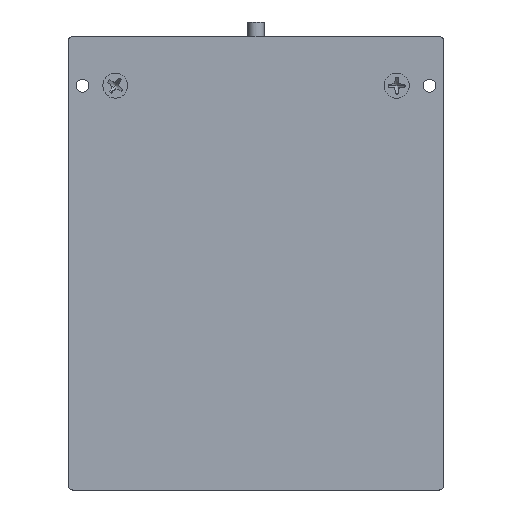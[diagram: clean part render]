
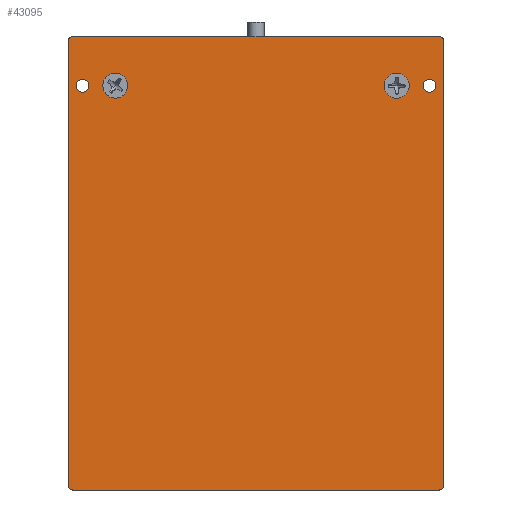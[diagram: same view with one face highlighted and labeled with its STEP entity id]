
A CAD part, front view. The second image highlights one B-rep face of the part: STEP entity #43095.
In plain terms, the highlighted planar face has unit normal (0, -1, 0).
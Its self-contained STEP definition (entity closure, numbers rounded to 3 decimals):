
#286 = CARTESIAN_POINT ( 'NONE',  ( 41., 0., 49.75 ) ) ;
#866 = VERTEX_POINT ( 'NONE', #40561 ) ;
#971 = EDGE_LOOP ( 'NONE', ( #22494, #44518 ) ) ;
#2166 = ORIENTED_EDGE ( 'NONE', *, *, #62552, .F. ) ;
#2408 = CARTESIAN_POINT ( 'NONE',  ( 41., 0., -49.75 ) ) ;
#2640 = EDGE_LOOP ( 'NONE', ( #7850, #22749, #29954, #69302, #58798, #18780, #23540, #4242 ) ) ;
#2759 = EDGE_CURVE ( 'NONE', #866, #35593, #24465, .T. ) ;
#4242 = ORIENTED_EDGE ( 'NONE', *, *, #2759, .T. ) ;
#4907 = EDGE_CURVE ( 'NONE', #31152, #67651, #40061, .T. ) ;
#5228 = EDGE_CURVE ( 'NONE', #39173, #67098, #50738, .T. ) ;
#5321 = AXIS2_PLACEMENT_3D ( 'NONE', #72750, #15448, #21437 ) ;
#6481 = EDGE_LOOP ( 'NONE', ( #42922, #44778 ) ) ;
#7850 = ORIENTED_EDGE ( 'NONE', *, *, #46719, .F. ) ;
#8473 = VERTEX_POINT ( 'NONE', #50607 ) ;
#8568 = DIRECTION ( 'NONE',  ( 0., -1., 0. ) ) ;
#8579 = VECTOR ( 'NONE', #56828, 1000. ) ;
#9852 = DIRECTION ( 'NONE',  ( 0., 0., 1. ) ) ;
#12301 = VERTEX_POINT ( 'NONE', #63314 ) ;
#12398 = CARTESIAN_POINT ( 'NONE',  ( -41., 0., 50.75 ) ) ;
#12462 = DIRECTION ( 'NONE',  ( 0., 0., -1. ) ) ;
#12641 = EDGE_CURVE ( 'NONE', #67651, #31152, #22614, .T. ) ;
#12776 = CIRCLE ( 'NONE', #50986, 1.45 ) ;
#12917 = EDGE_CURVE ( 'NONE', #38297, #22425, #23574, .T. ) ;
#13196 = VERTEX_POINT ( 'NONE', #12398 ) ;
#13966 = AXIS2_PLACEMENT_3D ( 'NONE', #29637, #30753, #47209 ) ;
#14102 = CARTESIAN_POINT ( 'NONE',  ( 42., 0., -50.75 ) ) ;
#14564 = VECTOR ( 'NONE', #48636, 1000. ) ;
#15131 = LINE ( 'NONE', #21121, #43657 ) ;
#15448 = DIRECTION ( 'NONE',  ( 0., -1., 0. ) ) ;
#15506 = DIRECTION ( 'NONE',  ( 0., -1., 0. ) ) ;
#18780 = ORIENTED_EDGE ( 'NONE', *, *, #5228, .T. ) ;
#19452 = AXIS2_PLACEMENT_3D ( 'NONE', #24088, #58867, #12462 ) ;
#19654 = DIRECTION ( 'NONE',  ( 0., -1., 0. ) ) ;
#20068 = LINE ( 'NONE', #14102, #45266 ) ;
#20354 = DIRECTION ( 'NONE',  ( 0., 0., -1. ) ) ;
#21121 = CARTESIAN_POINT ( 'NONE',  ( -42., 0., -50.75 ) ) ;
#21437 = DIRECTION ( 'NONE',  ( 0., 0., 1. ) ) ;
#22425 = VERTEX_POINT ( 'NONE', #62045 ) ;
#22494 = ORIENTED_EDGE ( 'NONE', *, *, #4907, .F. ) ;
#22614 = CIRCLE ( 'NONE', #40440, 1.45 ) ;
#22624 = PLANE ( 'NONE',  #40692 ) ;
#22749 = ORIENTED_EDGE ( 'NONE', *, *, #73479, .T. ) ;
#23146 = CARTESIAN_POINT ( 'NONE',  ( -42., 0., 49.75 ) ) ;
#23532 = CIRCLE ( 'NONE', #13966, 2.75 ) ;
#23540 = ORIENTED_EDGE ( 'NONE', *, *, #40515, .F. ) ;
#23574 = CIRCLE ( 'NONE', #65439, 2.75 ) ;
#24088 = CARTESIAN_POINT ( 'NONE',  ( 31.5, 0., 39.75 ) ) ;
#24465 = CIRCLE ( 'NONE', #73533, 1. ) ;
#24956 = VERTEX_POINT ( 'NONE', #23146 ) ;
#26083 = CIRCLE ( 'NONE', #57157, 1.45 ) ;
#26101 = EDGE_CURVE ( 'NONE', #51237, #24956, #15131, .T. ) ;
#28423 = EDGE_CURVE ( 'NONE', #51237, #12301, #37655, .T. ) ;
#28538 = AXIS2_PLACEMENT_3D ( 'NONE', #38717, #15506, #39090 ) ;
#29000 = FACE_BOUND ( 'NONE', #31645, .T. ) ;
#29012 = CIRCLE ( 'NONE', #19452, 2.75 ) ;
#29127 = CARTESIAN_POINT ( 'NONE',  ( 31.5, 0., 42.5 ) ) ;
#29380 = DIRECTION ( 'NONE',  ( 0., 1., 0. ) ) ;
#29637 = CARTESIAN_POINT ( 'NONE',  ( -31.5, 0., 39.75 ) ) ;
#29749 = CARTESIAN_POINT ( 'NONE',  ( 0., 0., 0. ) ) ;
#29954 = ORIENTED_EDGE ( 'NONE', *, *, #26101, .F. ) ;
#30070 = CARTESIAN_POINT ( 'NONE',  ( 38.84, 0., 38.3 ) ) ;
#30625 = CARTESIAN_POINT ( 'NONE',  ( -31.5, 0., 42.5 ) ) ;
#30753 = DIRECTION ( 'NONE',  ( 0., -1., 0. ) ) ;
#30947 = CIRCLE ( 'NONE', #28538, 1. ) ;
#31152 = VERTEX_POINT ( 'NONE', #30070 ) ;
#31246 = DIRECTION ( 'NONE',  ( 0., -1., 0. ) ) ;
#31645 = EDGE_LOOP ( 'NONE', ( #36172, #60625 ) ) ;
#32015 = DIRECTION ( 'NONE',  ( 0., -1., 0. ) ) ;
#33715 = CARTESIAN_POINT ( 'NONE',  ( -38.84, 0., 39.75 ) ) ;
#34015 = CARTESIAN_POINT ( 'NONE',  ( -42., 0., 50.75 ) ) ;
#34524 = EDGE_CURVE ( 'NONE', #39173, #12301, #66631, .T. ) ;
#34626 = FACE_BOUND ( 'NONE', #6481, .T. ) ;
#35593 = VERTEX_POINT ( 'NONE', #70821 ) ;
#36172 = ORIENTED_EDGE ( 'NONE', *, *, #68916, .F. ) ;
#36176 = CARTESIAN_POINT ( 'NONE',  ( -38.84, 0., 38.3 ) ) ;
#36950 = DIRECTION ( 'NONE',  ( 0., 0., -1. ) ) ;
#37353 = DIRECTION ( 'NONE',  ( 0., 0., -1. ) ) ;
#37416 = ORIENTED_EDGE ( 'NONE', *, *, #47538, .F. ) ;
#37570 = DIRECTION ( 'NONE',  ( 0., 0., -1. ) ) ;
#37655 = CIRCLE ( 'NONE', #5321, 1. ) ;
#38297 = VERTEX_POINT ( 'NONE', #30625 ) ;
#38717 = CARTESIAN_POINT ( 'NONE',  ( -41., 0., 49.75 ) ) ;
#39090 = DIRECTION ( 'NONE',  ( 0., 0., 1. ) ) ;
#39173 = VERTEX_POINT ( 'NONE', #70190 ) ;
#40061 = CIRCLE ( 'NONE', #63943, 1.45 ) ;
#40440 = AXIS2_PLACEMENT_3D ( 'NONE', #61543, #32015, #67564 ) ;
#40515 = EDGE_CURVE ( 'NONE', #866, #67098, #20068, .T. ) ;
#40561 = CARTESIAN_POINT ( 'NONE',  ( 42., 0., 49.75 ) ) ;
#40692 = AXIS2_PLACEMENT_3D ( 'NONE', #29749, #29380, #69442 ) ;
#42922 = ORIENTED_EDGE ( 'NONE', *, *, #72683, .F. ) ;
#42949 = CARTESIAN_POINT ( 'NONE',  ( 38.84, 0., 39.75 ) ) ;
#43095 = ADVANCED_FACE ( 'NONE', ( #46574, #34626, #73944, #29000, #45824 ), #22624, .F. ) ;
#43386 = DIRECTION ( 'NONE',  ( 0., 0., -1. ) ) ;
#43657 = VECTOR ( 'NONE', #9852, 1000. ) ;
#43752 = CARTESIAN_POINT ( 'NONE',  ( -38.84, 0., 39.75 ) ) ;
#43833 = EDGE_LOOP ( 'NONE', ( #2166, #37416 ) ) ;
#44518 = ORIENTED_EDGE ( 'NONE', *, *, #12641, .F. ) ;
#44778 = ORIENTED_EDGE ( 'NONE', *, *, #71273, .F. ) ;
#45155 = CARTESIAN_POINT ( 'NONE',  ( -42., 0., -49.75 ) ) ;
#45266 = VECTOR ( 'NONE', #36950, 1000. ) ;
#45824 = FACE_OUTER_BOUND ( 'NONE', #2640, .T. ) ;
#46082 = CARTESIAN_POINT ( 'NONE',  ( 38.84, 0., 41.2 ) ) ;
#46574 = FACE_BOUND ( 'NONE', #971, .T. ) ;
#46719 = EDGE_CURVE ( 'NONE', #13196, #35593, #63940, .T. ) ;
#47209 = DIRECTION ( 'NONE',  ( 0., 0., -1. ) ) ;
#47538 = EDGE_CURVE ( 'NONE', #71655, #63970, #29012, .T. ) ;
#48049 = CIRCLE ( 'NONE', #58850, 2.75 ) ;
#48636 = DIRECTION ( 'NONE',  ( -1., 0., 0. ) ) ;
#50607 = CARTESIAN_POINT ( 'NONE',  ( -38.84, 0., 41.2 ) ) ;
#50738 = CIRCLE ( 'NONE', #69955, 1. ) ;
#50986 = AXIS2_PLACEMENT_3D ( 'NONE', #33715, #56517, #51260 ) ;
#51237 = VERTEX_POINT ( 'NONE', #45155 ) ;
#51260 = DIRECTION ( 'NONE',  ( 0., 0., -1. ) ) ;
#56517 = DIRECTION ( 'NONE',  ( 0., -1., 0. ) ) ;
#56828 = DIRECTION ( 'NONE',  ( 1., 0., 0. ) ) ;
#56843 = DIRECTION ( 'NONE',  ( 0., 0., 1. ) ) ;
#57157 = AXIS2_PLACEMENT_3D ( 'NONE', #43752, #8568, #43386 ) ;
#58798 = ORIENTED_EDGE ( 'NONE', *, *, #34524, .F. ) ;
#58850 = AXIS2_PLACEMENT_3D ( 'NONE', #71670, #31246, #20354 ) ;
#58867 = DIRECTION ( 'NONE',  ( 0., -1., 0. ) ) ;
#59699 = DIRECTION ( 'NONE',  ( 0., 0., 1. ) ) ;
#59793 = DIRECTION ( 'NONE',  ( 0., -1., 0. ) ) ;
#60625 = ORIENTED_EDGE ( 'NONE', *, *, #12917, .F. ) ;
#61060 = CARTESIAN_POINT ( 'NONE',  ( 31.5, 0., 37. ) ) ;
#61527 = CARTESIAN_POINT ( 'NONE',  ( 42., 0., -49.75 ) ) ;
#61543 = CARTESIAN_POINT ( 'NONE',  ( 38.84, 0., 39.75 ) ) ;
#62045 = CARTESIAN_POINT ( 'NONE',  ( -31.5, 0., 37. ) ) ;
#62552 = EDGE_CURVE ( 'NONE', #63970, #71655, #48049, .T. ) ;
#62843 = DIRECTION ( 'NONE',  ( 0., -1., 0. ) ) ;
#63314 = CARTESIAN_POINT ( 'NONE',  ( -41., 0., -50.75 ) ) ;
#63940 = LINE ( 'NONE', #34015, #8579 ) ;
#63943 = AXIS2_PLACEMENT_3D ( 'NONE', #42949, #59793, #37353 ) ;
#63970 = VERTEX_POINT ( 'NONE', #61060 ) ;
#65439 = AXIS2_PLACEMENT_3D ( 'NONE', #66371, #72370, #37570 ) ;
#66371 = CARTESIAN_POINT ( 'NONE',  ( -31.5, 0., 39.75 ) ) ;
#66631 = LINE ( 'NONE', #72259, #14564 ) ;
#66997 = VERTEX_POINT ( 'NONE', #36176 ) ;
#67098 = VERTEX_POINT ( 'NONE', #61527 ) ;
#67564 = DIRECTION ( 'NONE',  ( 0., 0., -1. ) ) ;
#67651 = VERTEX_POINT ( 'NONE', #46082 ) ;
#68916 = EDGE_CURVE ( 'NONE', #22425, #38297, #23532, .T. ) ;
#69302 = ORIENTED_EDGE ( 'NONE', *, *, #28423, .T. ) ;
#69442 = DIRECTION ( 'NONE',  ( 0., 0., 1. ) ) ;
#69955 = AXIS2_PLACEMENT_3D ( 'NONE', #2408, #19654, #59699 ) ;
#70190 = CARTESIAN_POINT ( 'NONE',  ( 41., 0., -50.75 ) ) ;
#70821 = CARTESIAN_POINT ( 'NONE',  ( 41., 0., 50.75 ) ) ;
#71273 = EDGE_CURVE ( 'NONE', #8473, #66997, #12776, .T. ) ;
#71655 = VERTEX_POINT ( 'NONE', #29127 ) ;
#71670 = CARTESIAN_POINT ( 'NONE',  ( 31.5, 0., 39.75 ) ) ;
#72259 = CARTESIAN_POINT ( 'NONE',  ( -42., 0., -50.75 ) ) ;
#72370 = DIRECTION ( 'NONE',  ( 0., -1., 0. ) ) ;
#72683 = EDGE_CURVE ( 'NONE', #66997, #8473, #26083, .T. ) ;
#72750 = CARTESIAN_POINT ( 'NONE',  ( -41., 0., -49.75 ) ) ;
#73479 = EDGE_CURVE ( 'NONE', #13196, #24956, #30947, .T. ) ;
#73533 = AXIS2_PLACEMENT_3D ( 'NONE', #286, #62843, #56843 ) ;
#73944 = FACE_BOUND ( 'NONE', #43833, .T. ) ;
